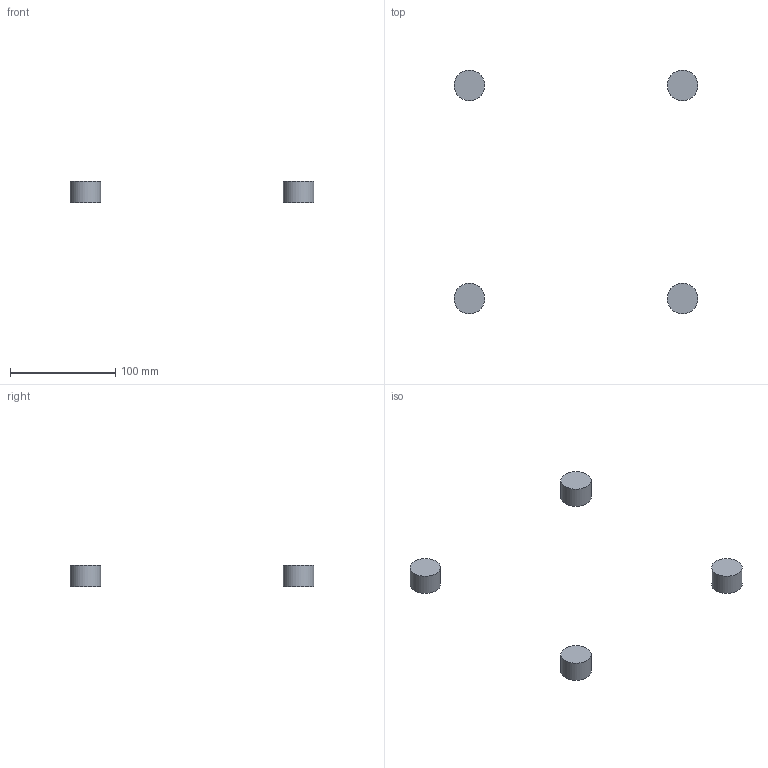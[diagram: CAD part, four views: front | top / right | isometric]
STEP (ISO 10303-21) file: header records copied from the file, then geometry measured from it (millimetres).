
FILE_DESCRIPTION(('FreeCAD Model'),'2;1');
FILE_NAME('Open CASCADE Shape Model','2026-10-22T12:56:02',('FreeCAD'),( 'FreeCAD'),'Open CASCADE STEP processor 8.0','FreeCAD','Unknown');
FILE_SCHEMA(('AUTOMOTIVE_DESIGN { 1 0 10303 214 1 1 1 1 }'));
Length unit declared in the file: millimetre
Products named in the file (1): Open CASCADE STEP translator 8.0 4
Bounding box: 231.23 x 231.23 x 20 mm (x, y, z)
Volume: 52841.6 mm3; surface area: 12572.7 mm2
Topology: 4 solids, 4 shells, 12 faces, 12 edges, 8 vertices
Faces by surface type: plane 8, cylinder 4
Full cylindrical faces by diameter (mm): 29 x4
Entity records: 228 total; most frequent: DIRECTION 46, CARTESIAN_POINT 33, ORIENTED_EDGE 24, AXIS2_PLACEMENT_3D 21, ADVANCED_FACE 12, FACE_BOUND 12, EDGE_LOOP 12, EDGE_CURVE 12
